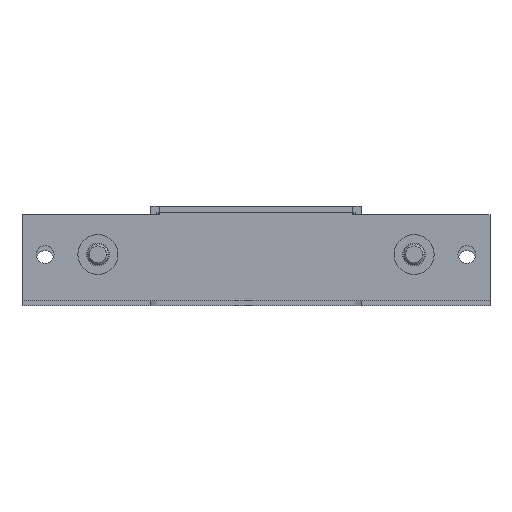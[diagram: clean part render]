
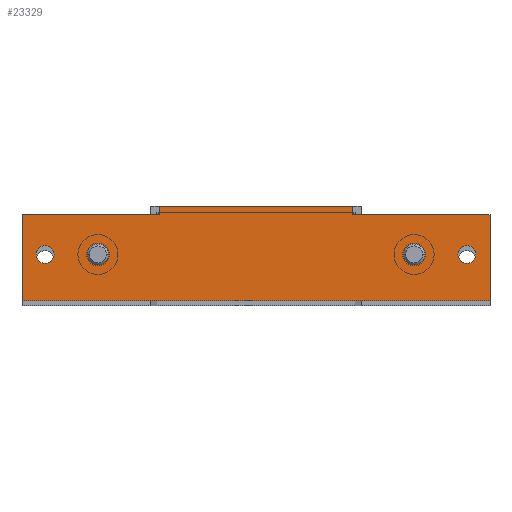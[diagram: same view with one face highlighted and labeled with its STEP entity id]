
A CAD part, top view. The second image highlights one B-rep face of the part: STEP entity #23329.
In plain terms, the highlighted planar face has unit normal (0, 0, 1).
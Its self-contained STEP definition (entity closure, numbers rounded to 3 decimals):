
#2410 = VERTEX_POINT('',#2411);
#2411 = CARTESIAN_POINT('',(-47.9,-11.5,348.5));
#2417 = EDGE_CURVE('',#2418,#2410,#2420,.T.);
#2418 = VERTEX_POINT('',#2419);
#2419 = CARTESIAN_POINT('',(-52.1,-11.5,348.5));
#2420 = CIRCLE('',#2421,2.1);
#2421 = AXIS2_PLACEMENT_3D('',#2422,#2423,#2424);
#2422 = CARTESIAN_POINT('',(-50.,-11.5,348.5));
#2423 = DIRECTION('',(0.,0.,1.));
#2424 = DIRECTION('',(1.,0.,-0.));
#2452 = VERTEX_POINT('',#2453);
#2453 = CARTESIAN_POINT('',(39.6,-11.5,348.5));
#2459 = EDGE_CURVE('',#2460,#2452,#2462,.T.);
#2460 = VERTEX_POINT('',#2461);
#2461 = CARTESIAN_POINT('',(35.4,-11.5,348.5));
#2462 = CIRCLE('',#2463,2.1);
#2463 = AXIS2_PLACEMENT_3D('',#2464,#2465,#2466);
#2464 = CARTESIAN_POINT('',(37.5,-11.5,348.5));
#2465 = DIRECTION('',(0.,0.,1.));
#2466 = DIRECTION('',(-1.,0.,0.));
#2494 = VERTEX_POINT('',#2495);
#2495 = CARTESIAN_POINT('',(52.1,-11.5,348.5));
#2501 = EDGE_CURVE('',#2502,#2494,#2504,.T.);
#2502 = VERTEX_POINT('',#2503);
#2503 = CARTESIAN_POINT('',(47.9,-11.5,348.5));
#2504 = CIRCLE('',#2505,2.1);
#2505 = AXIS2_PLACEMENT_3D('',#2506,#2507,#2508);
#2506 = CARTESIAN_POINT('',(50.,-11.5,348.5));
#2507 = DIRECTION('',(0.,0.,1.));
#2508 = DIRECTION('',(-1.,0.,0.));
#2536 = VERTEX_POINT('',#2537);
#2537 = CARTESIAN_POINT('',(-35.4,-11.5,348.5));
#2543 = EDGE_CURVE('',#2544,#2536,#2546,.T.);
#2544 = VERTEX_POINT('',#2545);
#2545 = CARTESIAN_POINT('',(-39.6,-11.5,348.5));
#2546 = CIRCLE('',#2547,2.1);
#2547 = AXIS2_PLACEMENT_3D('',#2548,#2549,#2550);
#2548 = CARTESIAN_POINT('',(-37.5,-11.5,348.5));
#2549 = DIRECTION('',(0.,0.,1.));
#2550 = DIRECTION('',(1.,0.,-0.));
#9683 = VERTEX_POINT('',#9684);
#9684 = CARTESIAN_POINT('',(-22.9,0.,348.5));
#9690 = EDGE_CURVE('',#9691,#9683,#9693,.T.);
#9691 = VERTEX_POINT('',#9692);
#9692 = CARTESIAN_POINT('',(22.9,0.,348.5));
#9693 = LINE('',#9694,#9695);
#9694 = CARTESIAN_POINT('',(-25.,0.,348.5));
#9695 = VECTOR('',#9696,1.);
#9696 = DIRECTION('',(-1.,0.,0.));
#23270 = VERTEX_POINT('',#23271);
#23271 = CARTESIAN_POINT('',(22.9,-2.1,348.5));
#23286 = EDGE_CURVE('',#23270,#9691,#23287,.T.);
#23287 = LINE('',#23288,#23289);
#23288 = CARTESIAN_POINT('',(22.9,-2.1,348.5));
#23289 = VECTOR('',#23290,1.);
#23290 = DIRECTION('',(-0.,1.,0.));
#23310 = VERTEX_POINT('',#23311);
#23311 = CARTESIAN_POINT('',(-22.9,-2.1,348.5));
#23317 = EDGE_CURVE('',#23310,#9683,#23318,.T.);
#23318 = LINE('',#23319,#23320);
#23319 = CARTESIAN_POINT('',(-22.9,0.,348.5));
#23320 = VECTOR('',#23321,1.);
#23321 = DIRECTION('',(0.,1.,0.));
#23329 = ADVANCED_FACE('',(#23330,#23340,#23350,#23360,#23370),#23413,
  .T.);
#23330 = FACE_BOUND('',#23331,.T.);
#23331 = EDGE_LOOP('',(#23332,#23339));
#23332 = ORIENTED_EDGE('',*,*,#23333,.F.);
#23333 = EDGE_CURVE('',#2410,#2418,#23334,.T.);
#23334 = CIRCLE('',#23335,2.1);
#23335 = AXIS2_PLACEMENT_3D('',#23336,#23337,#23338);
#23336 = CARTESIAN_POINT('',(-50.,-11.5,348.5));
#23337 = DIRECTION('',(0.,0.,1.));
#23338 = DIRECTION('',(1.,0.,-0.));
#23339 = ORIENTED_EDGE('',*,*,#2417,.F.);
#23340 = FACE_BOUND('',#23341,.T.);
#23341 = EDGE_LOOP('',(#23342,#23349));
#23342 = ORIENTED_EDGE('',*,*,#23343,.F.);
#23343 = EDGE_CURVE('',#2452,#2460,#23344,.T.);
#23344 = CIRCLE('',#23345,2.1);
#23345 = AXIS2_PLACEMENT_3D('',#23346,#23347,#23348);
#23346 = CARTESIAN_POINT('',(37.5,-11.5,348.5));
#23347 = DIRECTION('',(0.,0.,1.));
#23348 = DIRECTION('',(-1.,0.,0.));
#23349 = ORIENTED_EDGE('',*,*,#2459,.F.);
#23350 = FACE_BOUND('',#23351,.T.);
#23351 = EDGE_LOOP('',(#23352,#23359));
#23352 = ORIENTED_EDGE('',*,*,#23353,.F.);
#23353 = EDGE_CURVE('',#2494,#2502,#23354,.T.);
#23354 = CIRCLE('',#23355,2.1);
#23355 = AXIS2_PLACEMENT_3D('',#23356,#23357,#23358);
#23356 = CARTESIAN_POINT('',(50.,-11.5,348.5));
#23357 = DIRECTION('',(0.,0.,1.));
#23358 = DIRECTION('',(-1.,0.,0.));
#23359 = ORIENTED_EDGE('',*,*,#2501,.F.);
#23360 = FACE_BOUND('',#23361,.T.);
#23361 = EDGE_LOOP('',(#23362,#23369));
#23362 = ORIENTED_EDGE('',*,*,#23363,.F.);
#23363 = EDGE_CURVE('',#2536,#2544,#23364,.T.);
#23364 = CIRCLE('',#23365,2.1);
#23365 = AXIS2_PLACEMENT_3D('',#23366,#23367,#23368);
#23366 = CARTESIAN_POINT('',(-37.5,-11.5,348.5));
#23367 = DIRECTION('',(0.,0.,1.));
#23368 = DIRECTION('',(1.,0.,-0.));
#23369 = ORIENTED_EDGE('',*,*,#2543,.F.);
#23370 = FACE_BOUND('',#23371,.T.);
#23371 = EDGE_LOOP('',(#23372,#23382,#23390,#23396,#23397,#23398,#23399,
    #23407));
#23372 = ORIENTED_EDGE('',*,*,#23373,.F.);
#23373 = EDGE_CURVE('',#23374,#23376,#23378,.T.);
#23374 = VERTEX_POINT('',#23375);
#23375 = CARTESIAN_POINT('',(55.5,-22.5,348.5));
#23376 = VERTEX_POINT('',#23377);
#23377 = CARTESIAN_POINT('',(-55.5,-22.5,348.5));
#23378 = LINE('',#23379,#23380);
#23379 = CARTESIAN_POINT('',(-22.9,-22.5,348.5));
#23380 = VECTOR('',#23381,1.);
#23381 = DIRECTION('',(-1.,0.,-0.));
#23382 = ORIENTED_EDGE('',*,*,#23383,.F.);
#23383 = EDGE_CURVE('',#23384,#23374,#23386,.T.);
#23384 = VERTEX_POINT('',#23385);
#23385 = CARTESIAN_POINT('',(55.5,-2.1,348.5));
#23386 = LINE('',#23387,#23388);
#23387 = CARTESIAN_POINT('',(55.5,-19.5,348.5));
#23388 = VECTOR('',#23389,1.);
#23389 = DIRECTION('',(0.,-1.,0.));
#23390 = ORIENTED_EDGE('',*,*,#23391,.F.);
#23391 = EDGE_CURVE('',#23270,#23384,#23392,.T.);
#23392 = LINE('',#23393,#23394);
#23393 = CARTESIAN_POINT('',(22.9,-2.1,348.5));
#23394 = VECTOR('',#23395,1.);
#23395 = DIRECTION('',(1.,0.,0.));
#23396 = ORIENTED_EDGE('',*,*,#23286,.T.);
#23397 = ORIENTED_EDGE('',*,*,#9690,.T.);
#23398 = ORIENTED_EDGE('',*,*,#23317,.F.);
#23399 = ORIENTED_EDGE('',*,*,#23400,.T.);
#23400 = EDGE_CURVE('',#23310,#23401,#23403,.T.);
#23401 = VERTEX_POINT('',#23402);
#23402 = CARTESIAN_POINT('',(-55.5,-2.1,348.5));
#23403 = LINE('',#23404,#23405);
#23404 = CARTESIAN_POINT('',(-22.9,-2.1,348.5));
#23405 = VECTOR('',#23406,1.);
#23406 = DIRECTION('',(-1.,0.,0.));
#23407 = ORIENTED_EDGE('',*,*,#23408,.T.);
#23408 = EDGE_CURVE('',#23401,#23376,#23409,.T.);
#23409 = LINE('',#23410,#23411);
#23410 = CARTESIAN_POINT('',(-55.5,-19.5,348.5));
#23411 = VECTOR('',#23412,1.);
#23412 = DIRECTION('',(0.,-1.,-0.));
#23413 = PLANE('',#23414);
#23414 = AXIS2_PLACEMENT_3D('',#23415,#23416,#23417);
#23415 = CARTESIAN_POINT('',(0.,0.,348.5
    ));
#23416 = DIRECTION('',(0.,0.,1.));
#23417 = DIRECTION('',(0.,-1.,0.));
